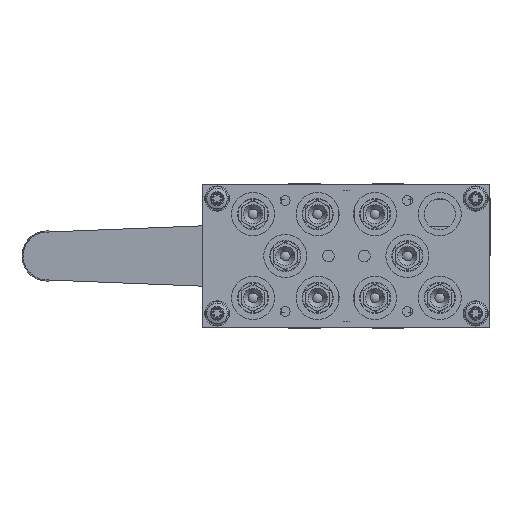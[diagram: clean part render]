
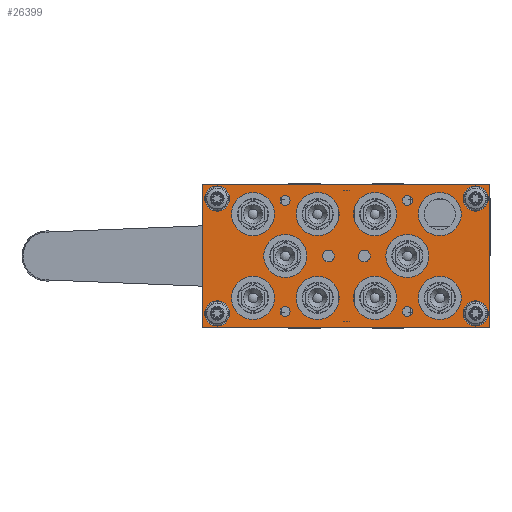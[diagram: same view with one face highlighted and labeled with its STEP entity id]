
A CAD part, left-side view. The second image highlights one B-rep face of the part: STEP entity #26399.
In plain terms, the highlighted planar face has unit normal (-1, 0, 0) as drawn and (0, 0, 1) by its records, which use the part's own axes.
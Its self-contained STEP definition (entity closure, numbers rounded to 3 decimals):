
#2510=LINE('',#63249,#3559);
#2514=LINE('',#63260,#3563);
#2518=LINE('',#63405,#3567);
#2519=LINE('',#63406,#3568);
#3559=VECTOR('',#32752,1000.);
#3563=VECTOR('',#32760,1000.);
#3567=VECTOR('',#32920,1000.);
#3568=VECTOR('',#32921,1000.);
#3987=PLANE('',#28287);
#9125=ORIENTED_EDGE('',*,*,#11915,.F.);
#9126=ORIENTED_EDGE('',*,*,#11916,.F.);
#9127=ORIENTED_EDGE('',*,*,#11917,.F.);
#9128=ORIENTED_EDGE('',*,*,#11918,.F.);
#9129=ORIENTED_EDGE('',*,*,#11919,.F.);
#9130=ORIENTED_EDGE('',*,*,#11920,.F.);
#9131=ORIENTED_EDGE('',*,*,#11921,.T.);
#9132=ORIENTED_EDGE('',*,*,#11922,.T.);
#9133=ORIENTED_EDGE('',*,*,#11923,.T.);
#9134=ORIENTED_EDGE('',*,*,#11924,.T.);
#9135=ORIENTED_EDGE('',*,*,#11925,.T.);
#9136=ORIENTED_EDGE('',*,*,#11926,.T.);
#9137=ORIENTED_EDGE('',*,*,#11927,.T.);
#9138=ORIENTED_EDGE('',*,*,#11857,.T.);
#9139=ORIENTED_EDGE('',*,*,#11928,.T.);
#9140=ORIENTED_EDGE('',*,*,#11862,.T.);
#9141=ORIENTED_EDGE('',*,*,#11929,.T.);
#9142=ORIENTED_EDGE('',*,*,#11930,.T.);
#9143=ORIENTED_EDGE('',*,*,#11931,.T.);
#9144=ORIENTED_EDGE('',*,*,#11932,.T.);
#9145=ORIENTED_EDGE('',*,*,#11933,.T.);
#9146=ORIENTED_EDGE('',*,*,#11934,.T.);
#9147=ORIENTED_EDGE('',*,*,#11935,.T.);
#9148=ORIENTED_EDGE('',*,*,#11936,.T.);
#11857=EDGE_CURVE('',#13570,#13569,#2510,.T.);
#11862=EDGE_CURVE('',#13575,#13574,#2514,.T.);
#11915=EDGE_CURVE('',#13625,#13625,#14459,.T.);
#11916=EDGE_CURVE('',#13626,#13626,#14460,.T.);
#11917=EDGE_CURVE('',#13627,#13627,#14461,.T.);
#11918=EDGE_CURVE('',#13628,#13628,#14462,.T.);
#11919=EDGE_CURVE('',#13629,#13629,#14463,.T.);
#11920=EDGE_CURVE('',#13630,#13630,#14464,.T.);
#11921=EDGE_CURVE('',#13631,#13631,#14465,.T.);
#11922=EDGE_CURVE('',#13632,#13632,#14466,.T.);
#11923=EDGE_CURVE('',#13633,#13633,#14467,.T.);
#11924=EDGE_CURVE('',#13634,#13634,#14468,.T.);
#11925=EDGE_CURVE('',#13635,#13635,#14469,.T.);
#11926=EDGE_CURVE('',#13636,#13636,#14470,.T.);
#11927=EDGE_CURVE('',#13637,#13637,#14471,.T.);
#11928=EDGE_CURVE('',#13569,#13575,#2518,.T.);
#11929=EDGE_CURVE('',#13574,#13570,#2519,.T.);
#11930=EDGE_CURVE('',#13638,#13638,#14472,.T.);
#11931=EDGE_CURVE('',#13639,#13639,#14473,.T.);
#11932=EDGE_CURVE('',#13640,#13640,#14474,.T.);
#11933=EDGE_CURVE('',#13641,#13641,#14475,.T.);
#11934=EDGE_CURVE('',#13642,#13642,#14476,.T.);
#11935=EDGE_CURVE('',#13643,#13643,#14477,.T.);
#11936=EDGE_CURVE('',#13644,#13644,#14478,.T.);
#13569=VERTEX_POINT('',#63248);
#13570=VERTEX_POINT('',#63250);
#13574=VERTEX_POINT('',#63259);
#13575=VERTEX_POINT('',#63261);
#13625=VERTEX_POINT('',#63380);
#13626=VERTEX_POINT('',#63382);
#13627=VERTEX_POINT('',#63384);
#13628=VERTEX_POINT('',#63386);
#13629=VERTEX_POINT('',#63388);
#13630=VERTEX_POINT('',#63390);
#13631=VERTEX_POINT('',#63392);
#13632=VERTEX_POINT('',#63394);
#13633=VERTEX_POINT('',#63396);
#13634=VERTEX_POINT('',#63398);
#13635=VERTEX_POINT('',#63400);
#13636=VERTEX_POINT('',#63402);
#13637=VERTEX_POINT('',#63404);
#13638=VERTEX_POINT('',#63408);
#13639=VERTEX_POINT('',#63410);
#13640=VERTEX_POINT('',#63412);
#13641=VERTEX_POINT('',#63414);
#13642=VERTEX_POINT('',#63416);
#13643=VERTEX_POINT('',#63418);
#13644=VERTEX_POINT('',#63420);
#14459=CIRCLE('',#28288,2.067);
#14460=CIRCLE('',#28289,2.067);
#14461=CIRCLE('',#28290,2.067);
#14462=CIRCLE('',#28291,2.067);
#14463=CIRCLE('',#28292,2.459);
#14464=CIRCLE('',#28293,2.459);
#14465=CIRCLE('',#28294,9.);
#14466=CIRCLE('',#28295,9.);
#14467=CIRCLE('',#28296,9.);
#14468=CIRCLE('',#28297,9.);
#14469=CIRCLE('',#28298,9.);
#14470=CIRCLE('',#28299,5.25);
#14471=CIRCLE('',#28300,5.25);
#14472=CIRCLE('',#28301,5.25);
#14473=CIRCLE('',#28302,9.);
#14474=CIRCLE('',#28303,9.);
#14475=CIRCLE('',#28304,9.);
#14476=CIRCLE('',#28305,9.);
#14477=CIRCLE('',#28306,9.);
#14478=CIRCLE('',#28307,5.25);
#15875=EDGE_LOOP('',(#9125));
#15876=EDGE_LOOP('',(#9126));
#15877=EDGE_LOOP('',(#9127));
#15878=EDGE_LOOP('',(#9128));
#15879=EDGE_LOOP('',(#9129));
#15880=EDGE_LOOP('',(#9130));
#15881=EDGE_LOOP('',(#9131));
#15882=EDGE_LOOP('',(#9132));
#15883=EDGE_LOOP('',(#9133));
#15884=EDGE_LOOP('',(#9134));
#15885=EDGE_LOOP('',(#9135));
#15886=EDGE_LOOP('',(#9136));
#15887=EDGE_LOOP('',(#9137));
#15888=EDGE_LOOP('',(#9138,#9139,#9140,#9141));
#15889=EDGE_LOOP('',(#9142));
#15890=EDGE_LOOP('',(#9143));
#15891=EDGE_LOOP('',(#9144));
#15892=EDGE_LOOP('',(#9145));
#15893=EDGE_LOOP('',(#9146));
#15894=EDGE_LOOP('',(#9147));
#15895=EDGE_LOOP('',(#9148));
#17394=FACE_BOUND('',#15875,.T.);
#17395=FACE_BOUND('',#15876,.T.);
#17396=FACE_BOUND('',#15877,.T.);
#17397=FACE_BOUND('',#15878,.T.);
#17398=FACE_BOUND('',#15879,.T.);
#17399=FACE_BOUND('',#15880,.T.);
#17400=FACE_BOUND('',#15881,.T.);
#17401=FACE_BOUND('',#15882,.T.);
#17402=FACE_BOUND('',#15883,.T.);
#17403=FACE_BOUND('',#15884,.T.);
#17404=FACE_BOUND('',#15885,.T.);
#17405=FACE_BOUND('',#15886,.T.);
#17406=FACE_BOUND('',#15887,.T.);
#17407=FACE_BOUND('',#15888,.T.);
#17408=FACE_BOUND('',#15889,.T.);
#17409=FACE_BOUND('',#15890,.T.);
#17410=FACE_BOUND('',#15891,.T.);
#17411=FACE_BOUND('',#15892,.T.);
#17412=FACE_BOUND('',#15893,.T.);
#17413=FACE_BOUND('',#15894,.T.);
#17414=FACE_BOUND('',#15895,.T.);
#26399=ADVANCED_FACE('',(#17394,#17395,#17396,#17397,#17398,#17399,#17400,
#17401,#17402,#17403,#17404,#17405,#17406,#17407,#17408,#17409,#17410,#17411,
#17412,#17413,#17414),#3987,.T.);
#28287=AXIS2_PLACEMENT_3D('',#63378,#32892,#32893);
#28288=AXIS2_PLACEMENT_3D('',#63379,#32894,#32895);
#28289=AXIS2_PLACEMENT_3D('',#63381,#32896,#32897);
#28290=AXIS2_PLACEMENT_3D('',#63383,#32898,#32899);
#28291=AXIS2_PLACEMENT_3D('',#63385,#32900,#32901);
#28292=AXIS2_PLACEMENT_3D('',#63387,#32902,#32903);
#28293=AXIS2_PLACEMENT_3D('',#63389,#32904,#32905);
#28294=AXIS2_PLACEMENT_3D('',#63391,#32906,#32907);
#28295=AXIS2_PLACEMENT_3D('',#63393,#32908,#32909);
#28296=AXIS2_PLACEMENT_3D('',#63395,#32910,#32911);
#28297=AXIS2_PLACEMENT_3D('',#63397,#32912,#32913);
#28298=AXIS2_PLACEMENT_3D('',#63399,#32914,#32915);
#28299=AXIS2_PLACEMENT_3D('',#63401,#32916,#32917);
#28300=AXIS2_PLACEMENT_3D('',#63403,#32918,#32919);
#28301=AXIS2_PLACEMENT_3D('',#63407,#32922,#32923);
#28302=AXIS2_PLACEMENT_3D('',#63409,#32924,#32925);
#28303=AXIS2_PLACEMENT_3D('',#63411,#32926,#32927);
#28304=AXIS2_PLACEMENT_3D('',#63413,#32928,#32929);
#28305=AXIS2_PLACEMENT_3D('',#63415,#32930,#32931);
#28306=AXIS2_PLACEMENT_3D('',#63417,#32932,#32933);
#28307=AXIS2_PLACEMENT_3D('',#63419,#32934,#32935);
#32752=DIRECTION('',(-1.,0.,0.));
#32760=DIRECTION('',(1.,0.,0.));
#32892=DIRECTION('',(0.,0.,1.));
#32893=DIRECTION('',(1.,0.,0.));
#32894=DIRECTION('',(0.,0.,1.));
#32895=DIRECTION('',(1.,0.,0.));
#32896=DIRECTION('',(0.,0.,1.));
#32897=DIRECTION('',(1.,0.,0.));
#32898=DIRECTION('',(0.,0.,1.));
#32899=DIRECTION('',(1.,0.,0.));
#32900=DIRECTION('',(0.,0.,1.));
#32901=DIRECTION('',(1.,0.,0.));
#32902=DIRECTION('',(0.,0.,1.));
#32903=DIRECTION('',(1.,0.,0.));
#32904=DIRECTION('',(0.,0.,1.));
#32905=DIRECTION('',(1.,0.,0.));
#32906=DIRECTION('',(0.,0.,-1.));
#32907=DIRECTION('',(1.,0.,0.));
#32908=DIRECTION('',(0.,0.,-1.));
#32909=DIRECTION('',(1.,0.,0.));
#32910=DIRECTION('',(0.,0.,-1.));
#32911=DIRECTION('',(1.,0.,0.));
#32912=DIRECTION('',(0.,0.,-1.));
#32913=DIRECTION('',(1.,0.,0.));
#32914=DIRECTION('',(0.,0.,-1.));
#32915=DIRECTION('',(1.,0.,0.));
#32916=DIRECTION('',(0.,0.,-1.));
#32917=DIRECTION('',(1.,0.,0.));
#32918=DIRECTION('',(0.,0.,-1.));
#32919=DIRECTION('',(1.,0.,0.));
#32920=DIRECTION('',(0.,-1.,0.));
#32921=DIRECTION('',(0.,1.,0.));
#32922=DIRECTION('',(0.,0.,-1.));
#32923=DIRECTION('',(1.,0.,0.));
#32924=DIRECTION('',(0.,0.,-1.));
#32925=DIRECTION('',(1.,0.,0.));
#32926=DIRECTION('',(0.,0.,-1.));
#32927=DIRECTION('',(1.,0.,0.));
#32928=DIRECTION('',(0.,0.,-1.));
#32929=DIRECTION('',(1.,0.,0.));
#32930=DIRECTION('',(0.,0.,-1.));
#32931=DIRECTION('',(1.,0.,0.));
#32932=DIRECTION('',(0.,0.,-1.));
#32933=DIRECTION('',(1.,0.,0.));
#32934=DIRECTION('',(0.,0.,-1.));
#32935=DIRECTION('',(1.,0.,0.));
#63248=CARTESIAN_POINT('',(-60.,30.,15.));
#63249=CARTESIAN_POINT('',(60.,30.,15.));
#63250=CARTESIAN_POINT('',(60.,30.,15.));
#63259=CARTESIAN_POINT('',(60.,-30.,15.));
#63260=CARTESIAN_POINT('',(-60.,-30.,15.));
#63261=CARTESIAN_POINT('',(-60.,-30.,15.));
#63378=CARTESIAN_POINT('',(-60.,30.,15.));
#63379=CARTESIAN_POINT('',(25.6,23.2,15.));
#63380=CARTESIAN_POINT('',(27.667,23.2,15.));
#63381=CARTESIAN_POINT('',(-25.6,23.2,15.));
#63382=CARTESIAN_POINT('',(-23.533,23.2,15.));
#63383=CARTESIAN_POINT('',(-25.6,-23.2,15.));
#63384=CARTESIAN_POINT('',(-23.533,-23.2,15.));
#63385=CARTESIAN_POINT('',(25.6,-23.2,15.));
#63386=CARTESIAN_POINT('',(27.667,-23.2,15.));
#63387=CARTESIAN_POINT('',(7.5,0.,15.));
#63388=CARTESIAN_POINT('',(9.959,0.,15.));
#63389=CARTESIAN_POINT('',(-7.5,0.,15.));
#63390=CARTESIAN_POINT('',(-5.041,0.,15.));
#63391=CARTESIAN_POINT('',(25.5,0.,15.));
#63392=CARTESIAN_POINT('',(34.5,0.,15.));
#63393=CARTESIAN_POINT('',(39.,17.5,15.));
#63394=CARTESIAN_POINT('',(48.,17.5,15.));
#63395=CARTESIAN_POINT('',(-39.,-17.5,15.));
#63396=CARTESIAN_POINT('',(-30.,-17.5,15.));
#63397=CARTESIAN_POINT('',(-12.,-17.5,15.));
#63398=CARTESIAN_POINT('',(-3.,-17.5,15.));
#63399=CARTESIAN_POINT('',(12.,17.5,15.));
#63400=CARTESIAN_POINT('',(21.,17.5,15.));
#63401=CARTESIAN_POINT('',(-54.,-24.,15.));
#63402=CARTESIAN_POINT('',(-48.75,-24.,15.));
#63403=CARTESIAN_POINT('',(54.,24.,15.));
#63404=CARTESIAN_POINT('',(59.25,24.,15.));
#63405=CARTESIAN_POINT('',(-60.,30.,15.));
#63406=CARTESIAN_POINT('',(60.,-30.,15.));
#63407=CARTESIAN_POINT('',(54.,-24.,15.));
#63408=CARTESIAN_POINT('',(59.25,-24.,15.));
#63409=CARTESIAN_POINT('',(-12.,17.5,15.));
#63410=CARTESIAN_POINT('',(-3.,17.5,15.));
#63411=CARTESIAN_POINT('',(12.,-17.5,15.));
#63412=CARTESIAN_POINT('',(21.,-17.5,15.));
#63413=CARTESIAN_POINT('',(-39.,17.5,15.));
#63414=CARTESIAN_POINT('',(-30.,17.5,15.));
#63415=CARTESIAN_POINT('',(39.,-17.5,15.));
#63416=CARTESIAN_POINT('',(48.,-17.5,15.));
#63417=CARTESIAN_POINT('',(-25.5,0.,15.));
#63418=CARTESIAN_POINT('',(-16.5,0.,15.));
#63419=CARTESIAN_POINT('',(-54.,24.,15.));
#63420=CARTESIAN_POINT('',(-48.75,24.,15.));
